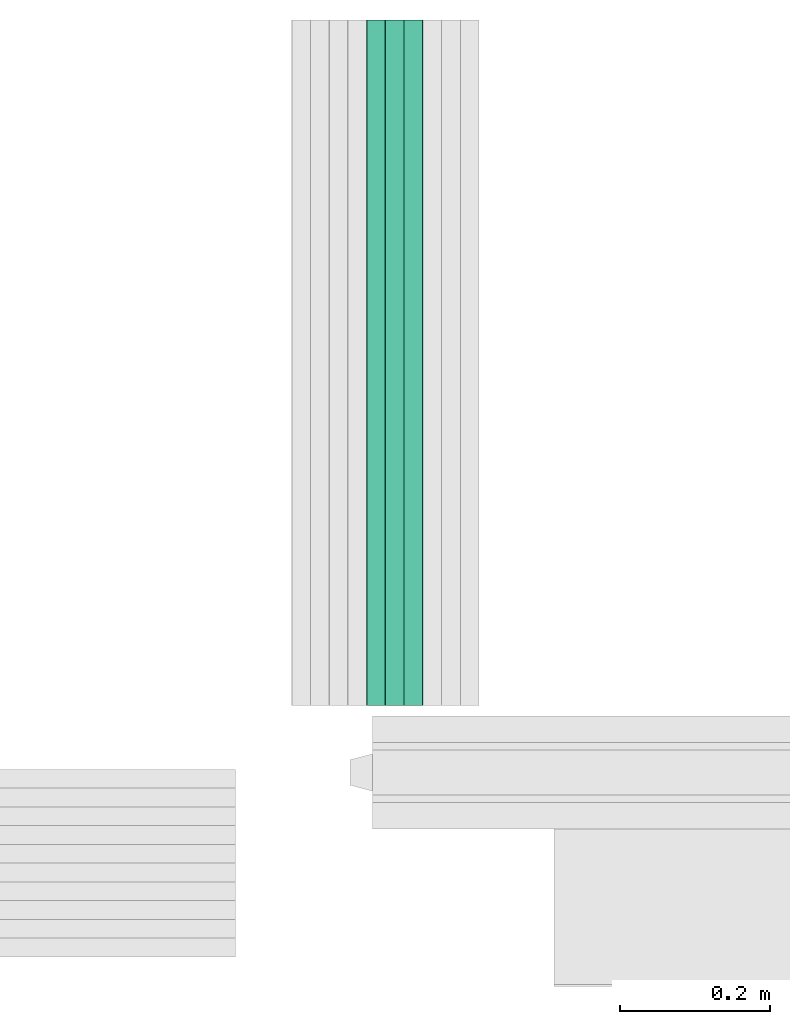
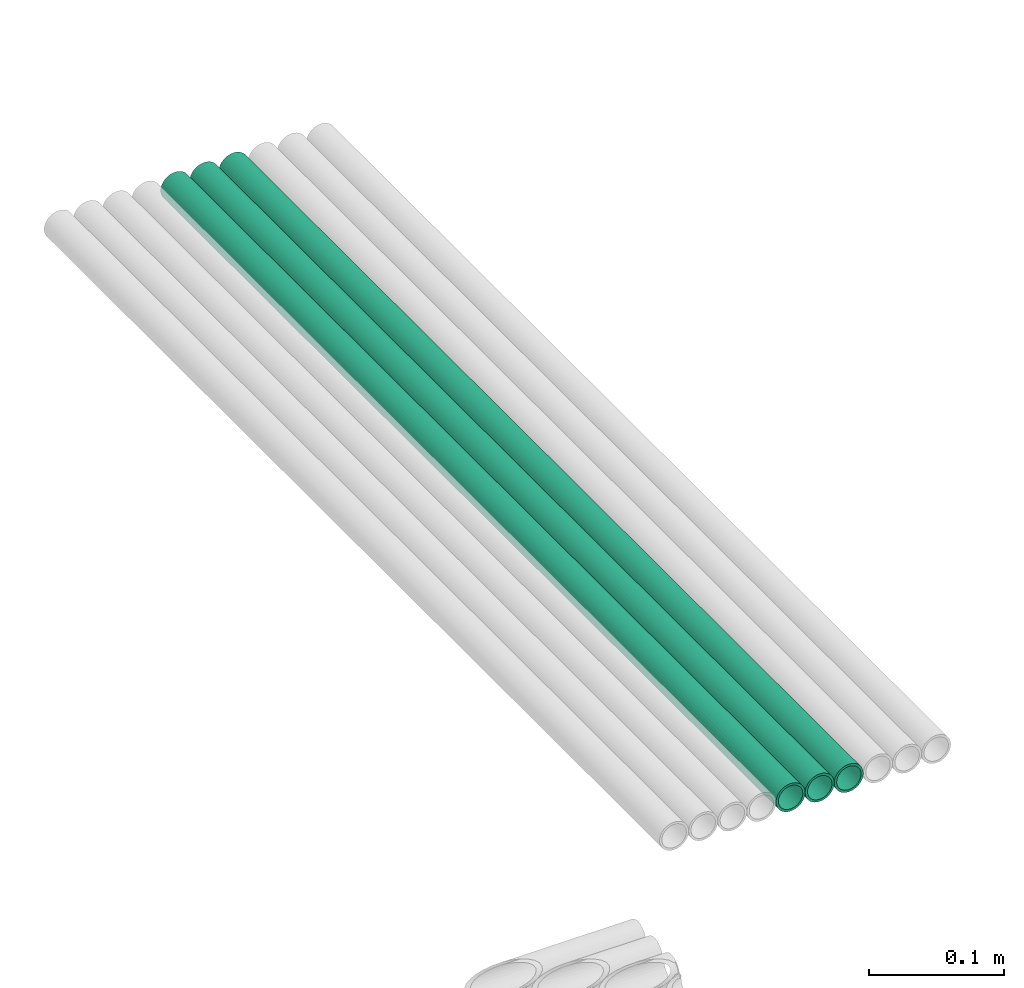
# One storey, part 11 of 14: 3 flow segments.
"""IFC2X3 building model written with IfcOpenShell, lengths in millimetres."""

from ifc_helpers import new_model, entity, si_unit, converted_unit, derived_unit, direction, frame, place, context, subcontext, project, spatial, faceted_brep, type_object, element, save


model = new_model("IFC2X3")

# Units and contexts
model_context = context("Model", 3, precision=0.01, world=frame((0.0, 4.29681676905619e-09, 0.0)), true_north=direction((4.01073788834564e-13, 1.0)))
plan_context = context("Plan", 3, precision=0.01, world=frame((0.0, 4.29681676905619e-09, 0.0)), true_north=direction((4.01073788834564e-13, 1.0)))
body_context = subcontext(model_context, "Body", "Model", "MODEL_VIEW")
ifc_project = project(units=[converted_unit("PLANEANGLEUNIT", "DEGREE", entity("IfcPositiveLengthMeasure", 0.0174532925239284), si_unit("PLANEANGLEUNIT", "RADIAN"), dimensions=[0, 0, 0, 0, 0, 0, 0]), si_unit("AREAUNIT", "SQUARE_METRE"), si_unit("LENGTHUNIT", "METRE", prefix="MILLI"), si_unit("MASSUNIT", "GRAM", prefix="KILO"), si_unit("POWERUNIT", "WATT"), si_unit("PRESSUREUNIT", "PASCAL", prefix="KILO"), si_unit("FORCEUNIT", "NEWTON", prefix="KILO"), si_unit("ELECTRICVOLTAGEUNIT", "VOLT"), si_unit("ELECTRICCURRENTUNIT", "AMPERE"), si_unit("THERMODYNAMICTEMPERATUREUNIT", "DEGREE_CELSIUS"), si_unit("TIMEUNIT", "SECOND"), si_unit("VOLUMEUNIT", "CUBIC_METRE"), derived_unit("LINEARVELOCITYUNIT", [(si_unit("LENGTHUNIT", "METRE"), 1), (si_unit("TIMEUNIT", "SECOND"), -1)]), derived_unit("VOLUMETRICFLOWRATEUNIT", [(si_unit("VOLUMEUNIT", "CUBIC_METRE"), 1), (si_unit("TIMEUNIT", "SECOND"), -1)]), derived_unit("THERMALTRANSMITTANCEUNIT", [(si_unit("POWERUNIT", "WATT"), 1), (si_unit("THERMODYNAMICTEMPERATUREUNIT", "KELVIN"), -1), (si_unit("AREAUNIT", "SQUARE_METRE"), -1)]), derived_unit("SOUNDPRESSUREUNIT", [(si_unit("PRESSUREUNIT", "PASCAL"), 1)])], contexts=[model_context, plan_context])

# Site, building, storey
site_placement = place(None, frame((0.0, -4.29681676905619e-09, 0.0), z_axis=(0.0, 0.0, 1.0), x_axis=(1.0, 0.0, 0.0)))
site = spatial("IfcSite", under=ifc_project, at=site_placement, Name="ENGM", CompositionType="ELEMENT")
building_placement = place(site_placement, frame((0.0, 4.29681676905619e-09, 0.0), z_axis=(0.0, 0.0, 1.0), x_axis=(1.0, 0.0, 0.0)))
building = spatial("IfcBuilding", under=site, at=building_placement, Name="TG", CompositionType="ELEMENT")
storey_placement = place(building_placement, frame((0.0, 0.0, 205200.0), z_axis=(0.0, 0.0, 1.0), x_axis=(1.0, 0.0, 0.0)))
storey = spatial("IfcBuildingStorey", under=building, at=storey_placement, Name="Nivå D + 1,2", CompositionType="ELEMENT", Elevation=205200.0)

# Flow segments
cable_carrier_segment_type = type_object("IfcCableCarrierSegmentType", Name="Conduit", PredefinedType="CONDUITSEGMENT")
flow_segment_1_placement = place(storey_placement, frame((332532.4875, 476415.04, 4970.0), z_axis=(0.0, 0.0, 1.0), x_axis=(0.0, -1.0, 0.0)))
element("IfcFlowSegment", 1, at=flow_segment_1_placement, inside=storey, type_object=cable_carrier_segment_type, Name="Conduit", context=body_context, shape_type="Brep", body=[
    faceted_brep([(8915.04000000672, 10.3404814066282, -1.82330586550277), (8915.04000000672, 10.5, 0.0), (9830.0, 10.5, 0.0), (9830.0, 10.3404814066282, -1.82330586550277), (8915.04000000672, 9.86677251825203, -3.59121150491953), (9830.0, 9.86677251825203, -3.59121150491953), (8915.04000000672, 9.0932667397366, -5.25), (9830.0, 9.0932667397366, -5.25), (8915.04000000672, 8.04346665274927, -6.74926990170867), (9830.0, 8.04346665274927, -6.74926990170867), (8915.04000000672, 6.74926990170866, -8.04346665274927), (9830.0, 6.74926990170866, -8.04346665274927), (8915.04000000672, 5.25, -9.09326673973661), (9830.0, 5.25, -9.09326673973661), (8915.04000000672, 3.59121150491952, -9.86677251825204), (9830.0, 3.59121150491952, -9.86677251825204), (8915.04000000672, 1.82330586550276, -10.3404814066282), (9830.0, 1.82330586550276, -10.3404814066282), (8915.04000000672, -1.92881870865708e-15, -10.5), (9830.0, -1.92881870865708e-15, -10.5), (8915.04000000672, -1.82330586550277, -10.3404814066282), (9830.0, -1.82330586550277, -10.3404814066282), (8915.04000000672, -3.59121150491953, -9.86677251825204), (9830.0, -3.59121150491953, -9.86677251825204), (8915.04000000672, -5.25, -9.0932667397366), (9830.0, -5.25, -9.0932667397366), (8915.04000000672, -6.74926990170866, -8.04346665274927), (9830.0, -6.74926990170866, -8.04346665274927), (8915.04000000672, -8.04346665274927, -6.74926990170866), (9830.0, -8.04346665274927, -6.74926990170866), (8915.04000000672, -9.09326673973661, -5.25), (9830.0, -9.09326673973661, -5.25), (8915.04000000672, -9.86677251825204, -3.59121150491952), (9830.0, -9.86677251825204, -3.59121150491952), (8915.04000000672, -10.3404814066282, -1.82330586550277), (9830.0, -10.3404814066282, -1.82330586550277), (8915.04000000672, -10.5, 1.28587913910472e-15), (9830.0, -10.5, 1.28587913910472e-15), (8915.04000000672, -10.3404814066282, 1.82330586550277), (9830.0, -10.3404814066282, 1.82330586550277), (8915.04000000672, -9.86677251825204, 3.59121150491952), (9830.0, -9.86677251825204, 3.59121150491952), (8915.04000000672, -9.09326673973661, 5.25), (9830.0, -9.09326673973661, 5.25), (8915.04000000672, -8.04346665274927, 6.74926990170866), (9830.0, -8.04346665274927, 6.74926990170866), (8915.04000000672, -6.74926990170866, 8.04346665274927), (9830.0, -6.74926990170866, 8.04346665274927), (8915.04000000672, -5.25, 9.09326673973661), (9830.0, -5.25, 9.09326673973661), (8915.04000000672, -3.59121150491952, 9.86677251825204), (9830.0, -3.59121150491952, 9.86677251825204), (8915.04000000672, -1.82330586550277, 10.3404814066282), (9830.0, -1.82330586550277, 10.3404814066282), (8915.04000000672, 6.4293956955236e-16, 10.5), (9830.0, 6.4293956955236e-16, 10.5), (8915.04000000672, 1.82330586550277, 10.3404814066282), (9830.0, 1.82330586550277, 10.3404814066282), (8915.04000000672, 3.59121150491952, 9.86677251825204), (9830.0, 3.59121150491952, 9.86677251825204), (8915.04000000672, 5.25, 9.09326673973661), (9830.0, 5.25, 9.09326673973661), (8915.04000000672, 6.74926990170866, 8.04346665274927), (9830.0, 6.74926990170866, 8.04346665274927), (8915.04000000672, 8.04346665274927, 6.74926990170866), (9830.0, 8.04346665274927, 6.74926990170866), (8915.04000000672, 9.09326673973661, 5.25), (9830.0, 9.09326673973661, 5.25), (8915.04000000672, 9.86677251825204, 3.59121150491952), (9830.0, 9.86677251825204, 3.59121150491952), (8915.04000000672, 10.3404814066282, 1.82330586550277), (9830.0, 10.3404814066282, 1.82330586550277), (8915.04000000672, 12.5, 0.0), (8915.04000000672, 12.3100969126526, -2.17060222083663), (9830.0, 12.3100969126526, -2.17060222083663), (9830.0, 12.5, 0.0), (8915.04000000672, 12.3100969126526, 2.17060222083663), (9830.0, 12.3100969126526, 2.17060222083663), (8915.04000000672, 11.7461577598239, 4.27525179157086), (9830.0, 11.7461577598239, 4.27525179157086), (8915.04000000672, 10.8253175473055, 6.25), (9830.0, 10.8253175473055, 6.25), (8915.04000000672, 9.57555553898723, 8.03484512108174), (9830.0, 9.57555553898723, 8.03484512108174), (8915.04000000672, 8.03484512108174, 9.57555553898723), (9830.0, 8.03484512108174, 9.57555553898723), (8915.04000000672, 6.25, 10.8253175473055), (9830.0, 6.25, 10.8253175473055), (8915.04000000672, 4.27525179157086, 11.7461577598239), (9830.0, 4.27525179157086, 11.7461577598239), (8915.04000000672, 2.17060222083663, 12.3100969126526), (9830.0, 2.17060222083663, 12.3100969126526), (8915.04000000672, 7.65404249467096e-16, 12.5), (9830.0, 7.65404249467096e-16, 12.5), (8915.04000000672, -2.17060222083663, 12.3100969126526), (9830.0, -2.17060222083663, 12.3100969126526), (8915.04000000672, -4.27525179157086, 11.7461577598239), (9830.0, -4.27525179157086, 11.7461577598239), (8915.04000000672, -6.25, 10.8253175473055), (9830.0, -6.25, 10.8253175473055), (8915.04000000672, -8.03484512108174, 9.57555553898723), (9830.0, -8.03484512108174, 9.57555553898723), (8915.04000000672, -9.57555553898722, 8.03484512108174), (9830.0, -9.57555553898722, 8.03484512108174), (8915.04000000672, -10.8253175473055, 6.25), (9830.0, -10.8253175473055, 6.25), (8915.04000000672, -11.7461577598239, 4.27525179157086), (9830.0, -11.7461577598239, 4.27525179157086), (8915.04000000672, -12.3100969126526, 2.17060222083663), (9830.0, -12.3100969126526, 2.17060222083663), (8915.04000000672, -12.5, 1.53080849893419e-15), (9830.0, -12.5, 1.53080849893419e-15), (8915.04000000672, -12.3100969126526, -2.17060222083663), (9830.0, -12.3100969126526, -2.17060222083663), (8915.04000000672, -11.7461577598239, -4.27525179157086), (9830.0, -11.7461577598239, -4.27525179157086), (8915.04000000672, -10.8253175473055, -6.25), (9830.0, -10.8253175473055, -6.25), (8915.04000000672, -9.57555553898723, -8.03484512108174), (9830.0, -9.57555553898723, -8.03484512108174), (8915.04000000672, -8.03484512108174, -9.57555553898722), (9830.0, -8.03484512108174, -9.57555553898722), (8915.04000000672, -6.25000000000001, -10.8253175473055), (9830.0, -6.25000000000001, -10.8253175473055), (8915.04000000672, -4.27525179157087, -11.7461577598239), (9830.0, -4.27525179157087, -11.7461577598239), (8915.04000000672, -2.17060222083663, -12.3100969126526), (9830.0, -2.17060222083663, -12.3100969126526), (8915.04000000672, -2.29621274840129e-15, -12.5), (9830.0, -2.29621274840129e-15, -12.5), (8915.04000000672, 2.17060222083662, -12.3100969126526), (9830.0, 2.17060222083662, -12.3100969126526), (8915.04000000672, 4.27525179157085, -11.7461577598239), (9830.0, 4.27525179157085, -11.7461577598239), (8915.04000000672, 6.25, -10.8253175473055), (9830.0, 6.25, -10.8253175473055), (8915.04000000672, 8.03484512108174, -9.57555553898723), (9830.0, 8.03484512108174, -9.57555553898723), (8915.04000000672, 9.57555553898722, -8.03484512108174), (9830.0, 9.57555553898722, -8.03484512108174), (8915.04000000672, 10.8253175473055, -6.25000000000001), (9830.0, 10.8253175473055, -6.25000000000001), (8915.04000000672, 11.7461577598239, -4.27525179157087), (9830.0, 11.7461577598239, -4.27525179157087)], [[[0, 1, 2, 3]], [[4, 0, 3, 5]], [[6, 4, 5, 7]], [[8, 6, 7, 9]], [[10, 8, 9, 11]], [[12, 10, 11, 13]], [[14, 12, 13, 15]], [[16, 14, 15, 17]], [[18, 16, 17, 19]], [[20, 18, 19, 21]], [[22, 20, 21, 23]], [[24, 22, 23, 25]], [[26, 24, 25, 27]], [[28, 26, 27, 29]], [[30, 28, 29, 31]], [[32, 30, 31, 33]], [[34, 32, 33, 35]], [[36, 34, 35, 37]], [[38, 36, 37, 39]], [[40, 38, 39, 41]], [[42, 40, 41, 43]], [[44, 42, 43, 45]], [[46, 44, 45, 47]], [[48, 46, 47, 49]], [[50, 48, 49, 51]], [[52, 50, 51, 53]], [[54, 52, 53, 55]], [[56, 54, 55, 57]], [[58, 56, 57, 59]], [[60, 58, 59, 61]], [[62, 60, 61, 63]], [[64, 62, 63, 65]], [[66, 64, 65, 67]], [[68, 66, 67, 69]], [[70, 68, 69, 71]], [[1, 70, 71, 2]], [[72, 73, 74, 75]], [[76, 72, 75, 77]], [[78, 76, 77, 79]], [[80, 78, 79, 81]], [[82, 80, 81, 83]], [[84, 82, 83, 85]], [[86, 84, 85, 87]], [[88, 86, 87, 89]], [[90, 88, 89, 91]], [[92, 90, 91, 93]], [[94, 92, 93, 95]], [[96, 94, 95, 97]], [[98, 96, 97, 99]], [[100, 98, 99, 101]], [[102, 100, 101, 103]], [[104, 102, 103, 105]], [[106, 104, 105, 107]], [[108, 106, 107, 109]], [[110, 108, 109, 111]], [[112, 110, 111, 113]], [[114, 112, 113, 115]], [[116, 114, 115, 117]], [[118, 116, 117, 119]], [[120, 118, 119, 121]], [[122, 120, 121, 123]], [[124, 122, 123, 125]], [[126, 124, 125, 127]], [[128, 126, 127, 129]], [[130, 128, 129, 131]], [[132, 130, 131, 133]], [[134, 132, 133, 135]], [[136, 134, 135, 137]], [[138, 136, 137, 139]], [[140, 138, 139, 141]], [[142, 140, 141, 143]], [[73, 142, 143, 74]], [[75, 74, 143, 141, 139, 137, 135, 133, 131, 129, 127, 125, 123, 121, 119, 117, 115, 113, 111, 109, 107, 105, 103, 101, 99, 97, 95, 93, 91, 89, 87, 85, 83, 81, 79, 77], [2, 71, 69, 67, 65, 63, 61, 59, 57, 55, 53, 51, 49, 47, 45, 43, 41, 39, 37, 35, 33, 31, 29, 27, 25, 23, 21, 19, 17, 15, 13, 11, 9, 7, 5, 3]], [[76, 78, 80, 82, 84, 86, 88, 90, 92, 94, 96, 98, 100, 102, 104, 106, 108, 110, 112, 114, 116, 118, 120, 122, 124, 126, 128, 130, 132, 134, 136, 138, 140, 142, 73, 72], [4, 6, 8, 10, 12, 14, 16, 18, 20, 22, 24, 26, 28, 30, 32, 34, 36, 38, 40, 42, 44, 46, 48, 50, 52, 54, 56, 58, 60, 62, 64, 66, 68, 70, 1, 0]]], orient=[[False], [False], [False], [False], [False], [False], [False], [False], [False], [False], [False], [False], [False], [False], [False], [False], [False], [False], [False], [False], [False], [False], [False], [False], [False], [False], [False], [False], [False], [False], [False], [False], [False], [False], [False], [False], [False], [False], [False], [False], [False], [False], [False], [False], [False], [False], [False], [False], [False], [False], [False], [False], [False], [False], [False], [False], [False], [False], [False], [False], [False], [False], [False], [False], [False], [False], [False], [False], [False], [False], [False], [False], [False, False], [False, False]]),
])
flow_segment_2_placement = place(storey_placement, frame((332507.4875, 476415.04, 4970.0), z_axis=(0.0, 0.0, 1.0), x_axis=(0.0, -1.0, 0.0)))
element("IfcFlowSegment", 2, at=flow_segment_2_placement, inside=storey, type_object=cable_carrier_segment_type, Name="Conduit", context=body_context, shape_type="Brep", body=[
    faceted_brep([(8915.04000000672, 10.3404814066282, -1.82330586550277), (8915.04000000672, 10.5, 0.0), (9830.0, 10.5, 0.0), (9830.0, 10.3404814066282, -1.82330586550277), (8915.04000000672, 9.86677251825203, -3.59121150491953), (9830.0, 9.86677251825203, -3.59121150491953), (8915.04000000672, 9.0932667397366, -5.25), (9830.0, 9.0932667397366, -5.25), (8915.04000000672, 8.04346665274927, -6.74926990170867), (9830.0, 8.04346665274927, -6.74926990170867), (8915.04000000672, 6.74926990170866, -8.04346665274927), (9830.0, 6.74926990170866, -8.04346665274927), (8915.04000000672, 5.25, -9.09326673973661), (9830.0, 5.25, -9.09326673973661), (8915.04000000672, 3.59121150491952, -9.86677251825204), (9830.0, 3.59121150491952, -9.86677251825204), (8915.04000000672, 1.82330586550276, -10.3404814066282), (9830.0, 1.82330586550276, -10.3404814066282), (8915.04000000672, -1.92881870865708e-15, -10.5), (9830.0, -1.92881870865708e-15, -10.5), (8915.04000000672, -1.82330586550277, -10.3404814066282), (9830.0, -1.82330586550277, -10.3404814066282), (8915.04000000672, -3.59121150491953, -9.86677251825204), (9830.0, -3.59121150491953, -9.86677251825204), (8915.04000000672, -5.25, -9.0932667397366), (9830.0, -5.25, -9.0932667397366), (8915.04000000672, -6.74926990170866, -8.04346665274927), (9830.0, -6.74926990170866, -8.04346665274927), (8915.04000000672, -8.04346665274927, -6.74926990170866), (9830.0, -8.04346665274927, -6.74926990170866), (8915.04000000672, -9.09326673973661, -5.25), (9830.0, -9.09326673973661, -5.25), (8915.04000000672, -9.86677251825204, -3.59121150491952), (9830.0, -9.86677251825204, -3.59121150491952), (8915.04000000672, -10.3404814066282, -1.82330586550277), (9830.0, -10.3404814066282, -1.82330586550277), (8915.04000000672, -10.5, 1.28587913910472e-15), (9830.0, -10.5, 1.28587913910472e-15), (8915.04000000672, -10.3404814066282, 1.82330586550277), (9830.0, -10.3404814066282, 1.82330586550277), (8915.04000000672, -9.86677251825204, 3.59121150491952), (9830.0, -9.86677251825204, 3.59121150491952), (8915.04000000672, -9.09326673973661, 5.25), (9830.0, -9.09326673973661, 5.25), (8915.04000000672, -8.04346665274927, 6.74926990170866), (9830.0, -8.04346665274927, 6.74926990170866), (8915.04000000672, -6.74926990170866, 8.04346665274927), (9830.0, -6.74926990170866, 8.04346665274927), (8915.04000000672, -5.25, 9.09326673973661), (9830.0, -5.25, 9.09326673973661), (8915.04000000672, -3.59121150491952, 9.86677251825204), (9830.0, -3.59121150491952, 9.86677251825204), (8915.04000000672, -1.82330586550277, 10.3404814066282), (9830.0, -1.82330586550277, 10.3404814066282), (8915.04000000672, 6.4293956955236e-16, 10.5), (9830.0, 6.4293956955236e-16, 10.5), (8915.04000000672, 1.82330586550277, 10.3404814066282), (9830.0, 1.82330586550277, 10.3404814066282), (8915.04000000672, 3.59121150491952, 9.86677251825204), (9830.0, 3.59121150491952, 9.86677251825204), (8915.04000000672, 5.25, 9.09326673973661), (9830.0, 5.25, 9.09326673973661), (8915.04000000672, 6.74926990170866, 8.04346665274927), (9830.0, 6.74926990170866, 8.04346665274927), (8915.04000000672, 8.04346665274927, 6.74926990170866), (9830.0, 8.04346665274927, 6.74926990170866), (8915.04000000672, 9.09326673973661, 5.25), (9830.0, 9.09326673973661, 5.25), (8915.04000000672, 9.86677251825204, 3.59121150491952), (9830.0, 9.86677251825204, 3.59121150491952), (8915.04000000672, 10.3404814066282, 1.82330586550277), (9830.0, 10.3404814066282, 1.82330586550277), (8915.04000000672, 12.5, 0.0), (8915.04000000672, 12.3100969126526, -2.17060222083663), (9830.0, 12.3100969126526, -2.17060222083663), (9830.0, 12.5, 0.0), (8915.04000000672, 12.3100969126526, 2.17060222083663), (9830.0, 12.3100969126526, 2.17060222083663), (8915.04000000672, 11.7461577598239, 4.27525179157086), (9830.0, 11.7461577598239, 4.27525179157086), (8915.04000000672, 10.8253175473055, 6.25), (9830.0, 10.8253175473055, 6.25), (8915.04000000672, 9.57555553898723, 8.03484512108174), (9830.0, 9.57555553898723, 8.03484512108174), (8915.04000000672, 8.03484512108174, 9.57555553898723), (9830.0, 8.03484512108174, 9.57555553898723), (8915.04000000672, 6.25, 10.8253175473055), (9830.0, 6.25, 10.8253175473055), (8915.04000000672, 4.27525179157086, 11.7461577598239), (9830.0, 4.27525179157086, 11.7461577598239), (8915.04000000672, 2.17060222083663, 12.3100969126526), (9830.0, 2.17060222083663, 12.3100969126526), (8915.04000000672, 7.65404249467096e-16, 12.5), (9830.0, 7.65404249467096e-16, 12.5), (8915.04000000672, -2.17060222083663, 12.3100969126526), (9830.0, -2.17060222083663, 12.3100969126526), (8915.04000000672, -4.27525179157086, 11.7461577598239), (9830.0, -4.27525179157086, 11.7461577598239), (8915.04000000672, -6.25, 10.8253175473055), (9830.0, -6.25, 10.8253175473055), (8915.04000000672, -8.03484512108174, 9.57555553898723), (9830.0, -8.03484512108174, 9.57555553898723), (8915.04000000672, -9.57555553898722, 8.03484512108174), (9830.0, -9.57555553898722, 8.03484512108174), (8915.04000000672, -10.8253175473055, 6.25), (9830.0, -10.8253175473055, 6.25), (8915.04000000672, -11.7461577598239, 4.27525179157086), (9830.0, -11.7461577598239, 4.27525179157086), (8915.04000000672, -12.3100969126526, 2.17060222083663), (9830.0, -12.3100969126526, 2.17060222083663), (8915.04000000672, -12.5, 1.53080849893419e-15), (9830.0, -12.5, 1.53080849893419e-15), (8915.04000000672, -12.3100969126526, -2.17060222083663), (9830.0, -12.3100969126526, -2.17060222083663), (8915.04000000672, -11.7461577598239, -4.27525179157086), (9830.0, -11.7461577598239, -4.27525179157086), (8915.04000000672, -10.8253175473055, -6.25), (9830.0, -10.8253175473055, -6.25), (8915.04000000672, -9.57555553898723, -8.03484512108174), (9830.0, -9.57555553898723, -8.03484512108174), (8915.04000000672, -8.03484512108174, -9.57555553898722), (9830.0, -8.03484512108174, -9.57555553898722), (8915.04000000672, -6.25000000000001, -10.8253175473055), (9830.0, -6.25000000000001, -10.8253175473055), (8915.04000000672, -4.27525179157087, -11.7461577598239), (9830.0, -4.27525179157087, -11.7461577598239), (8915.04000000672, -2.17060222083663, -12.3100969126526), (9830.0, -2.17060222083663, -12.3100969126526), (8915.04000000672, -2.29621274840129e-15, -12.5), (9830.0, -2.29621274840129e-15, -12.5), (8915.04000000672, 2.17060222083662, -12.3100969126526), (9830.0, 2.17060222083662, -12.3100969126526), (8915.04000000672, 4.27525179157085, -11.7461577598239), (9830.0, 4.27525179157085, -11.7461577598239), (8915.04000000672, 6.25, -10.8253175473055), (9830.0, 6.25, -10.8253175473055), (8915.04000000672, 8.03484512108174, -9.57555553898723), (9830.0, 8.03484512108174, -9.57555553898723), (8915.04000000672, 9.57555553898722, -8.03484512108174), (9830.0, 9.57555553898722, -8.03484512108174), (8915.04000000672, 10.8253175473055, -6.25000000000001), (9830.0, 10.8253175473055, -6.25000000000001), (8915.04000000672, 11.7461577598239, -4.27525179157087), (9830.0, 11.7461577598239, -4.27525179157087)], [[[0, 1, 2, 3]], [[4, 0, 3, 5]], [[6, 4, 5, 7]], [[8, 6, 7, 9]], [[10, 8, 9, 11]], [[12, 10, 11, 13]], [[14, 12, 13, 15]], [[16, 14, 15, 17]], [[18, 16, 17, 19]], [[20, 18, 19, 21]], [[22, 20, 21, 23]], [[24, 22, 23, 25]], [[26, 24, 25, 27]], [[28, 26, 27, 29]], [[30, 28, 29, 31]], [[32, 30, 31, 33]], [[34, 32, 33, 35]], [[36, 34, 35, 37]], [[38, 36, 37, 39]], [[40, 38, 39, 41]], [[42, 40, 41, 43]], [[44, 42, 43, 45]], [[46, 44, 45, 47]], [[48, 46, 47, 49]], [[50, 48, 49, 51]], [[52, 50, 51, 53]], [[54, 52, 53, 55]], [[56, 54, 55, 57]], [[58, 56, 57, 59]], [[60, 58, 59, 61]], [[62, 60, 61, 63]], [[64, 62, 63, 65]], [[66, 64, 65, 67]], [[68, 66, 67, 69]], [[70, 68, 69, 71]], [[1, 70, 71, 2]], [[72, 73, 74, 75]], [[76, 72, 75, 77]], [[78, 76, 77, 79]], [[80, 78, 79, 81]], [[82, 80, 81, 83]], [[84, 82, 83, 85]], [[86, 84, 85, 87]], [[88, 86, 87, 89]], [[90, 88, 89, 91]], [[92, 90, 91, 93]], [[94, 92, 93, 95]], [[96, 94, 95, 97]], [[98, 96, 97, 99]], [[100, 98, 99, 101]], [[102, 100, 101, 103]], [[104, 102, 103, 105]], [[106, 104, 105, 107]], [[108, 106, 107, 109]], [[110, 108, 109, 111]], [[112, 110, 111, 113]], [[114, 112, 113, 115]], [[116, 114, 115, 117]], [[118, 116, 117, 119]], [[120, 118, 119, 121]], [[122, 120, 121, 123]], [[124, 122, 123, 125]], [[126, 124, 125, 127]], [[128, 126, 127, 129]], [[130, 128, 129, 131]], [[132, 130, 131, 133]], [[134, 132, 133, 135]], [[136, 134, 135, 137]], [[138, 136, 137, 139]], [[140, 138, 139, 141]], [[142, 140, 141, 143]], [[73, 142, 143, 74]], [[75, 74, 143, 141, 139, 137, 135, 133, 131, 129, 127, 125, 123, 121, 119, 117, 115, 113, 111, 109, 107, 105, 103, 101, 99, 97, 95, 93, 91, 89, 87, 85, 83, 81, 79, 77], [2, 71, 69, 67, 65, 63, 61, 59, 57, 55, 53, 51, 49, 47, 45, 43, 41, 39, 37, 35, 33, 31, 29, 27, 25, 23, 21, 19, 17, 15, 13, 11, 9, 7, 5, 3]], [[76, 78, 80, 82, 84, 86, 88, 90, 92, 94, 96, 98, 100, 102, 104, 106, 108, 110, 112, 114, 116, 118, 120, 122, 124, 126, 128, 130, 132, 134, 136, 138, 140, 142, 73, 72], [4, 6, 8, 10, 12, 14, 16, 18, 20, 22, 24, 26, 28, 30, 32, 34, 36, 38, 40, 42, 44, 46, 48, 50, 52, 54, 56, 58, 60, 62, 64, 66, 68, 70, 1, 0]]], orient=[[False], [False], [False], [False], [False], [False], [False], [False], [False], [False], [False], [False], [False], [False], [False], [False], [False], [False], [False], [False], [False], [False], [False], [False], [False], [False], [False], [False], [False], [False], [False], [False], [False], [False], [False], [False], [False], [False], [False], [False], [False], [False], [False], [False], [False], [False], [False], [False], [False], [False], [False], [False], [False], [False], [False], [False], [False], [False], [False], [False], [False], [False], [False], [False], [False], [False], [False], [False], [False], [False], [False], [False], [False, False], [False, False]]),
])
flow_segment_3_placement = place(storey_placement, frame((332482.4875, 476415.04, 4970.0), z_axis=(0.0, 0.0, 1.0), x_axis=(0.0, -1.0, 0.0)))
element("IfcFlowSegment", 3, at=flow_segment_3_placement, inside=storey, type_object=cable_carrier_segment_type, Name="Conduit", context=body_context, shape_type="Brep", body=[
    faceted_brep([(8915.04000000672, 10.3404814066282, -1.82330586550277), (8915.04000000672, 10.5, 0.0), (9830.0, 10.5, 0.0), (9830.0, 10.3404814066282, -1.82330586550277), (8915.04000000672, 9.86677251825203, -3.59121150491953), (9830.0, 9.86677251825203, -3.59121150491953), (8915.04000000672, 9.0932667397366, -5.25), (9830.0, 9.0932667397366, -5.25), (8915.04000000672, 8.04346665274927, -6.74926990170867), (9830.0, 8.04346665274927, -6.74926990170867), (8915.04000000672, 6.74926990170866, -8.04346665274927), (9830.0, 6.74926990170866, -8.04346665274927), (8915.04000000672, 5.25, -9.09326673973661), (9830.0, 5.25, -9.09326673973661), (8915.04000000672, 3.59121150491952, -9.86677251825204), (9830.0, 3.59121150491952, -9.86677251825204), (8915.04000000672, 1.82330586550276, -10.3404814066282), (9830.0, 1.82330586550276, -10.3404814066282), (8915.04000000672, -1.92881870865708e-15, -10.5), (9830.0, -1.92881870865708e-15, -10.5), (8915.04000000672, -1.82330586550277, -10.3404814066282), (9830.0, -1.82330586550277, -10.3404814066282), (8915.04000000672, -3.59121150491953, -9.86677251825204), (9830.0, -3.59121150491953, -9.86677251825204), (8915.04000000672, -5.25, -9.0932667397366), (9830.0, -5.25, -9.0932667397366), (8915.04000000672, -6.74926990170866, -8.04346665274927), (9830.0, -6.74926990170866, -8.04346665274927), (8915.04000000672, -8.04346665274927, -6.74926990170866), (9830.0, -8.04346665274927, -6.74926990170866), (8915.04000000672, -9.09326673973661, -5.25), (9830.0, -9.09326673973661, -5.25), (8915.04000000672, -9.86677251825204, -3.59121150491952), (9830.0, -9.86677251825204, -3.59121150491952), (8915.04000000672, -10.3404814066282, -1.82330586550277), (9830.0, -10.3404814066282, -1.82330586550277), (8915.04000000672, -10.5, 1.28587913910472e-15), (9830.0, -10.5, 1.28587913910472e-15), (8915.04000000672, -10.3404814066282, 1.82330586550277), (9830.0, -10.3404814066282, 1.82330586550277), (8915.04000000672, -9.86677251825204, 3.59121150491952), (9830.0, -9.86677251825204, 3.59121150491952), (8915.04000000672, -9.09326673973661, 5.25), (9830.0, -9.09326673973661, 5.25), (8915.04000000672, -8.04346665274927, 6.74926990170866), (9830.0, -8.04346665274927, 6.74926990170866), (8915.04000000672, -6.74926990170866, 8.04346665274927), (9830.0, -6.74926990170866, 8.04346665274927), (8915.04000000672, -5.25, 9.09326673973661), (9830.0, -5.25, 9.09326673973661), (8915.04000000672, -3.59121150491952, 9.86677251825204), (9830.0, -3.59121150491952, 9.86677251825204), (8915.04000000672, -1.82330586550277, 10.3404814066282), (9830.0, -1.82330586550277, 10.3404814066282), (8915.04000000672, 6.4293956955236e-16, 10.5), (9830.0, 6.4293956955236e-16, 10.5), (8915.04000000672, 1.82330586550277, 10.3404814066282), (9830.0, 1.82330586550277, 10.3404814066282), (8915.04000000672, 3.59121150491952, 9.86677251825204), (9830.0, 3.59121150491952, 9.86677251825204), (8915.04000000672, 5.25, 9.09326673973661), (9830.0, 5.25, 9.09326673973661), (8915.04000000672, 6.74926990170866, 8.04346665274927), (9830.0, 6.74926990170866, 8.04346665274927), (8915.04000000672, 8.04346665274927, 6.74926990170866), (9830.0, 8.04346665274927, 6.74926990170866), (8915.04000000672, 9.09326673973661, 5.25), (9830.0, 9.09326673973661, 5.25), (8915.04000000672, 9.86677251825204, 3.59121150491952), (9830.0, 9.86677251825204, 3.59121150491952), (8915.04000000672, 10.3404814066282, 1.82330586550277), (9830.0, 10.3404814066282, 1.82330586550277), (8915.04000000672, 12.5, 0.0), (8915.04000000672, 12.3100969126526, -2.17060222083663), (9830.0, 12.3100969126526, -2.17060222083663), (9830.0, 12.5, 0.0), (8915.04000000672, 12.3100969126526, 2.17060222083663), (9830.0, 12.3100969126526, 2.17060222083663), (8915.04000000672, 11.7461577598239, 4.27525179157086), (9830.0, 11.7461577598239, 4.27525179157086), (8915.04000000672, 10.8253175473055, 6.25), (9830.0, 10.8253175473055, 6.25), (8915.04000000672, 9.57555553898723, 8.03484512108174), (9830.0, 9.57555553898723, 8.03484512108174), (8915.04000000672, 8.03484512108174, 9.57555553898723), (9830.0, 8.03484512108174, 9.57555553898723), (8915.04000000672, 6.25, 10.8253175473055), (9830.0, 6.25, 10.8253175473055), (8915.04000000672, 4.27525179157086, 11.7461577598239), (9830.0, 4.27525179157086, 11.7461577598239), (8915.04000000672, 2.17060222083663, 12.3100969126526), (9830.0, 2.17060222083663, 12.3100969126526), (8915.04000000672, 7.65404249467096e-16, 12.5), (9830.0, 7.65404249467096e-16, 12.5), (8915.04000000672, -2.17060222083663, 12.3100969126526), (9830.0, -2.17060222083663, 12.3100969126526), (8915.04000000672, -4.27525179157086, 11.7461577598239), (9830.0, -4.27525179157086, 11.7461577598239), (8915.04000000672, -6.25, 10.8253175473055), (9830.0, -6.25, 10.8253175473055), (8915.04000000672, -8.03484512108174, 9.57555553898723), (9830.0, -8.03484512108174, 9.57555553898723), (8915.04000000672, -9.57555553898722, 8.03484512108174), (9830.0, -9.57555553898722, 8.03484512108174), (8915.04000000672, -10.8253175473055, 6.25), (9830.0, -10.8253175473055, 6.25), (8915.04000000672, -11.7461577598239, 4.27525179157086), (9830.0, -11.7461577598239, 4.27525179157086), (8915.04000000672, -12.3100969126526, 2.17060222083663), (9830.0, -12.3100969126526, 2.17060222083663), (8915.04000000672, -12.5, 1.53080849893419e-15), (9830.0, -12.5, 1.53080849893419e-15), (8915.04000000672, -12.3100969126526, -2.17060222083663), (9830.0, -12.3100969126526, -2.17060222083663), (8915.04000000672, -11.7461577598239, -4.27525179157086), (9830.0, -11.7461577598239, -4.27525179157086), (8915.04000000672, -10.8253175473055, -6.25), (9830.0, -10.8253175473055, -6.25), (8915.04000000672, -9.57555553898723, -8.03484512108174), (9830.0, -9.57555553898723, -8.03484512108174), (8915.04000000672, -8.03484512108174, -9.57555553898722), (9830.0, -8.03484512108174, -9.57555553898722), (8915.04000000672, -6.25000000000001, -10.8253175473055), (9830.0, -6.25000000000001, -10.8253175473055), (8915.04000000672, -4.27525179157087, -11.7461577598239), (9830.0, -4.27525179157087, -11.7461577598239), (8915.04000000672, -2.17060222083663, -12.3100969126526), (9830.0, -2.17060222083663, -12.3100969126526), (8915.04000000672, -2.29621274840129e-15, -12.5), (9830.0, -2.29621274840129e-15, -12.5), (8915.04000000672, 2.17060222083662, -12.3100969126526), (9830.0, 2.17060222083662, -12.3100969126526), (8915.04000000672, 4.27525179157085, -11.7461577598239), (9830.0, 4.27525179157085, -11.7461577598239), (8915.04000000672, 6.25, -10.8253175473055), (9830.0, 6.25, -10.8253175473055), (8915.04000000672, 8.03484512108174, -9.57555553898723), (9830.0, 8.03484512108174, -9.57555553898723), (8915.04000000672, 9.57555553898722, -8.03484512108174), (9830.0, 9.57555553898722, -8.03484512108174), (8915.04000000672, 10.8253175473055, -6.25000000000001), (9830.0, 10.8253175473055, -6.25000000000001), (8915.04000000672, 11.7461577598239, -4.27525179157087), (9830.0, 11.7461577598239, -4.27525179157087)], [[[0, 1, 2, 3]], [[4, 0, 3, 5]], [[6, 4, 5, 7]], [[8, 6, 7, 9]], [[10, 8, 9, 11]], [[12, 10, 11, 13]], [[14, 12, 13, 15]], [[16, 14, 15, 17]], [[18, 16, 17, 19]], [[20, 18, 19, 21]], [[22, 20, 21, 23]], [[24, 22, 23, 25]], [[26, 24, 25, 27]], [[28, 26, 27, 29]], [[30, 28, 29, 31]], [[32, 30, 31, 33]], [[34, 32, 33, 35]], [[36, 34, 35, 37]], [[38, 36, 37, 39]], [[40, 38, 39, 41]], [[42, 40, 41, 43]], [[44, 42, 43, 45]], [[46, 44, 45, 47]], [[48, 46, 47, 49]], [[50, 48, 49, 51]], [[52, 50, 51, 53]], [[54, 52, 53, 55]], [[56, 54, 55, 57]], [[58, 56, 57, 59]], [[60, 58, 59, 61]], [[62, 60, 61, 63]], [[64, 62, 63, 65]], [[66, 64, 65, 67]], [[68, 66, 67, 69]], [[70, 68, 69, 71]], [[1, 70, 71, 2]], [[72, 73, 74, 75]], [[76, 72, 75, 77]], [[78, 76, 77, 79]], [[80, 78, 79, 81]], [[82, 80, 81, 83]], [[84, 82, 83, 85]], [[86, 84, 85, 87]], [[88, 86, 87, 89]], [[90, 88, 89, 91]], [[92, 90, 91, 93]], [[94, 92, 93, 95]], [[96, 94, 95, 97]], [[98, 96, 97, 99]], [[100, 98, 99, 101]], [[102, 100, 101, 103]], [[104, 102, 103, 105]], [[106, 104, 105, 107]], [[108, 106, 107, 109]], [[110, 108, 109, 111]], [[112, 110, 111, 113]], [[114, 112, 113, 115]], [[116, 114, 115, 117]], [[118, 116, 117, 119]], [[120, 118, 119, 121]], [[122, 120, 121, 123]], [[124, 122, 123, 125]], [[126, 124, 125, 127]], [[128, 126, 127, 129]], [[130, 128, 129, 131]], [[132, 130, 131, 133]], [[134, 132, 133, 135]], [[136, 134, 135, 137]], [[138, 136, 137, 139]], [[140, 138, 139, 141]], [[142, 140, 141, 143]], [[73, 142, 143, 74]], [[75, 74, 143, 141, 139, 137, 135, 133, 131, 129, 127, 125, 123, 121, 119, 117, 115, 113, 111, 109, 107, 105, 103, 101, 99, 97, 95, 93, 91, 89, 87, 85, 83, 81, 79, 77], [2, 71, 69, 67, 65, 63, 61, 59, 57, 55, 53, 51, 49, 47, 45, 43, 41, 39, 37, 35, 33, 31, 29, 27, 25, 23, 21, 19, 17, 15, 13, 11, 9, 7, 5, 3]], [[76, 78, 80, 82, 84, 86, 88, 90, 92, 94, 96, 98, 100, 102, 104, 106, 108, 110, 112, 114, 116, 118, 120, 122, 124, 126, 128, 130, 132, 134, 136, 138, 140, 142, 73, 72], [4, 6, 8, 10, 12, 14, 16, 18, 20, 22, 24, 26, 28, 30, 32, 34, 36, 38, 40, 42, 44, 46, 48, 50, 52, 54, 56, 58, 60, 62, 64, 66, 68, 70, 1, 0]]], orient=[[False], [False], [False], [False], [False], [False], [False], [False], [False], [False], [False], [False], [False], [False], [False], [False], [False], [False], [False], [False], [False], [False], [False], [False], [False], [False], [False], [False], [False], [False], [False], [False], [False], [False], [False], [False], [False], [False], [False], [False], [False], [False], [False], [False], [False], [False], [False], [False], [False], [False], [False], [False], [False], [False], [False], [False], [False], [False], [False], [False], [False], [False], [False], [False], [False], [False], [False], [False], [False], [False], [False], [False], [False, False], [False, False]]),
])

save(model, "model.ifc")
